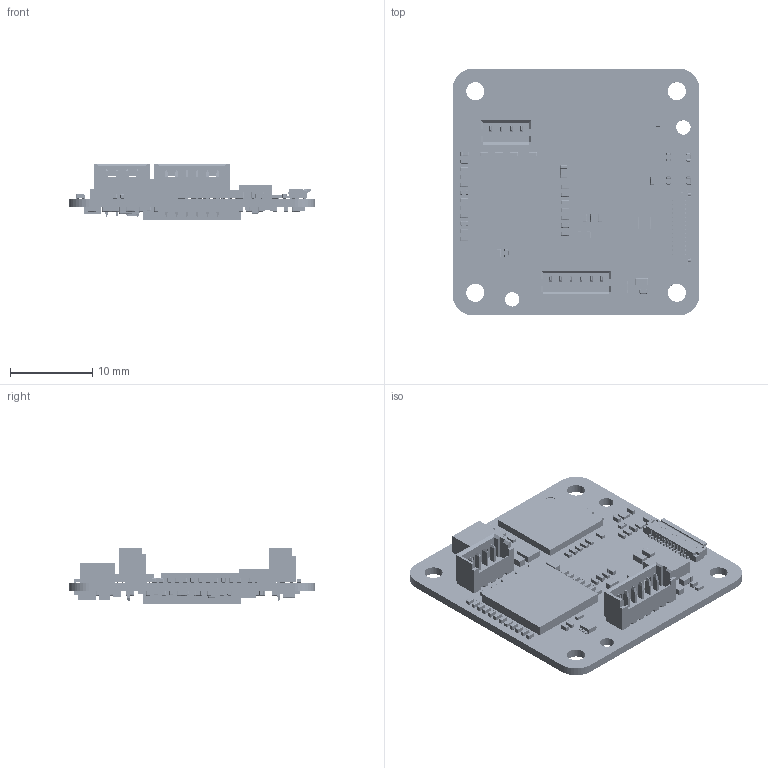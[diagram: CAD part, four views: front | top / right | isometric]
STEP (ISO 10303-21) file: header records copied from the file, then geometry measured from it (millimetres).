
FILE_DESCRIPTION(('Open CASCADE Model'),'2;1');
FILE_NAME('Open CASCADE Shape Model','2024-01-31T17:48:11',('Author'),( 'Open CASCADE'),'Open CASCADE STEP processor 6.8','Open CASCADE 6.8' ,'Unknown');
FILE_SCHEMA(('AUTOMOTIVE_DESIGN { 1 0 10303 214 1 1 1 1 }'));
Length unit declared in the file: millimetre
Products named in the file (255): PCB; Board; Open CASCADE STEP translator 6.8 2.1.1; J2; Molex_530470610; Open CASCADE STEP translator 6.8 2.2.1.1; Open CASCADE STEP translator 6.8 2.2.1.2; U1; 7012076080; Extruded; 7012075920; C95; TIS_0402C_L025_H06; C94; C37; C36; TIS_0402C_L025_H05; C34; R5; TIS_0402R_L02_H04; R4; C51; C50; C49; C45; C40; C39; U11; X2SON_TI; MOLD-SNB04A; FRAME-SNB04A; U8; U12; C113; TIS_0603C_L04_H08; C114; R39; 7012077280; J3; FH33-14S-0.5SH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
Assembly tree (906 placements, depth 5):
  PCB
    Board
      Open CASCADE STEP translator 6.8 2.1.1
    J2
      Molex_530470610
        Open CASCADE STEP translator 6.8 2.2.1.1
        Open CASCADE STEP translator 6.8 2.2.1.2
    U1
      7012076080
        Extruded
      7012075920
        Extruded
    C95
      TIS_0402C_L025_H06
      TIS_0402C_L025_H06
      TIS_0402C_L025_H06
    C94
      TIS_0402C_L025_H06
      TIS_0402C_L025_H06
      TIS_0402C_L025_H06
    C37
      TIS_0402C_L025_H06
      TIS_0402C_L025_H06
      TIS_0402C_L025_H06
    C36
      TIS_0402C_L025_H05
      TIS_0402C_L025_H05
      TIS_0402C_L025_H05
    C34
      TIS_0402C_L025_H05
      TIS_0402C_L025_H05
      TIS_0402C_L025_H05
    R5
      TIS_0402R_L02_H04
      TIS_0402R_L02_H04
      TIS_0402R_L02_H04
      TIS_0402R_L02_H04
    R4
      TIS_0402R_L02_H04
      TIS_0402R_L02_H04
      TIS_0402R_L02_H04
      TIS_0402R_L02_H04
    C51
      TIS_0402C_L025_H06
      TIS_0402C_L025_H06
      TIS_0402C_L025_H06
    C50
      TIS_0402C_L025_H06
      TIS_0402C_L025_H06
      TIS_0402C_L025_H06
    C49
      TIS_0402C_L025_H05
      TIS_0402C_L025_H05
      TIS_0402C_L025_H05
    C45
      TIS_0402C_L025_H05
      TIS_0402C_L025_H05
      TIS_0402C_L025_H05
    C40
      TIS_0402C_L025_H05
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Bounding box: 30.01 x 30 x 6.84 mm (x, y, z)
Volume: 1607.6 mm3; surface area: 4308.4 mm2
Topology: 720 solids, 721 shells, 10628 faces, 24592 edges, 14143 vertices
Faces by surface type: plane 4760, cylinder 3759, sphere 1137, torus 968, cone 4
Full cylindrical faces by diameter (mm): 0.5 x10, 1.125 x1, 1.75 x2, 2.2 x4
Entity records: 57807 total; most frequent: DIRECTION 9665, CARTESIAN_POINT 9299, ORIENTED_EDGE 8155, EDGE_CURVE 4078, LINE 3513, VECTOR 3513, AXIS2_PLACEMENT_3D 3076, VERTEX_POINT 2624
